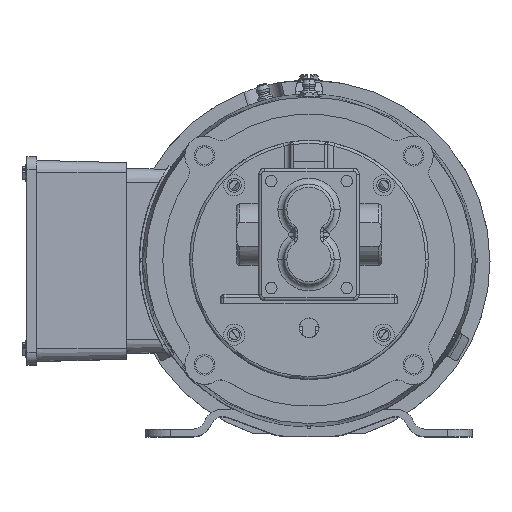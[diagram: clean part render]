
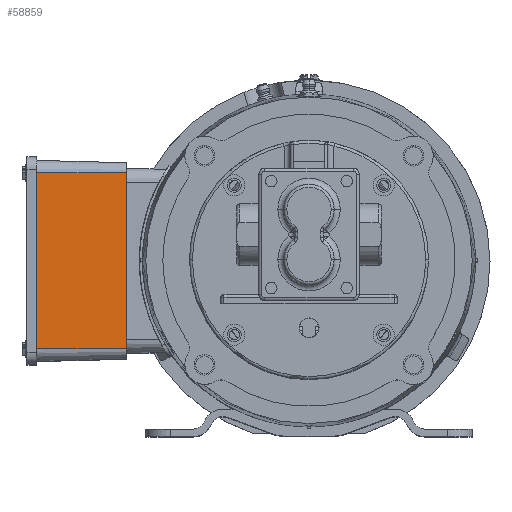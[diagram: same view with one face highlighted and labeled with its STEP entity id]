
A CAD part, top view. The second image highlights one B-rep face of the part: STEP entity #58859.
In plain terms, the highlighted planar face has unit normal (0.026, 0, 1).
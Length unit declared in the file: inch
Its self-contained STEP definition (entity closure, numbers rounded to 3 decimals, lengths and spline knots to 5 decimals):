
#1571 = CARTESIAN_POINT ( 'NONE',  ( -6.59618, 2.2822, -8.29026 ) ) ;
#7013 = PLANE ( 'NONE',  #24416 ) ;
#9485 = CARTESIAN_POINT ( 'NONE',  ( -6.59618, 2.2822, -8.29026 ) ) ;
#9666 = ORIENTED_EDGE ( 'NONE', *, *, #35410, .F. ) ;
#12640 = FACE_OUTER_BOUND ( 'NONE', #41572, .T. ) ;
#13055 = VECTOR ( 'NONE', #34735, 39.37008 ) ;
#14158 = LINE ( 'NONE', #9485, #55445 ) ;
#14369 = VERTEX_POINT ( 'NONE', #1571 ) ;
#15546 = CARTESIAN_POINT ( 'NONE',  ( -6.69118, -1.2178, -8.28777 ) ) ;
#15665 = LINE ( 'NONE', #48513, #13055 ) ;
#19294 = DIRECTION ( 'NONE',  ( -1., 0., 0.026 ) ) ;
#21411 = DIRECTION ( 'NONE',  ( 1., 0., -0.026 ) ) ;
#21734 = VERTEX_POINT ( 'NONE', #29027 ) ;
#24416 = AXIS2_PLACEMENT_3D ( 'NONE', #31692, #26996, #21411 ) ;
#26289 = VERTEX_POINT ( 'NONE', #59261 ) ;
#26668 = ORIENTED_EDGE ( 'NONE', *, *, #26997, .T. ) ;
#26996 = DIRECTION ( 'NONE',  ( 0.026, 0., 1. ) ) ;
#26997 = EDGE_CURVE ( 'NONE', #21734, #14369, #15665, .T. ) ;
#27474 = EDGE_CURVE ( 'NONE', #26289, #21734, #40250, .T. ) ;
#29027 = CARTESIAN_POINT ( 'NONE',  ( -4.81118, 2.2822, -8.337 ) ) ;
#31320 = CARTESIAN_POINT ( 'NONE',  ( -6.59618, -1.2178, -8.29026 ) ) ;
#31692 = CARTESIAN_POINT ( 'NONE',  ( -6.69118, 2.2822, -8.28777 ) ) ;
#32925 = DIRECTION ( 'NONE',  ( 0., -1., 0. ) ) ;
#33775 = EDGE_CURVE ( 'NONE', #14369, #56619, #14158, .T. ) ;
#34251 = VECTOR ( 'NONE', #41496, 39.37008 ) ;
#34735 = DIRECTION ( 'NONE',  ( -1., 0., 0.026 ) ) ;
#35410 = EDGE_CURVE ( 'NONE', #26289, #56619, #43062, .T. ) ;
#40250 = LINE ( 'NONE', #41171, #34251 ) ;
#41171 = CARTESIAN_POINT ( 'NONE',  ( -4.81118, 2.2822, -8.337 ) ) ;
#41496 = DIRECTION ( 'NONE',  ( 0., 1., 0. ) ) ;
#41572 = EDGE_LOOP ( 'NONE', ( #26668, #50916, #9666, #57267 ) ) ;
#43062 = LINE ( 'NONE', #15546, #61314 ) ;
#48513 = CARTESIAN_POINT ( 'NONE',  ( -6.69118, 2.2822, -8.28777 ) ) ;
#50916 = ORIENTED_EDGE ( 'NONE', *, *, #33775, .T. ) ;
#55445 = VECTOR ( 'NONE', #32925, 39.37008 ) ;
#56619 = VERTEX_POINT ( 'NONE', #31320 ) ;
#57267 = ORIENTED_EDGE ( 'NONE', *, *, #27474, .T. ) ;
#58859 = ADVANCED_FACE ( 'NONE', ( #12640 ), #7013, .T. ) ;
#59261 = CARTESIAN_POINT ( 'NONE',  ( -4.81118, -1.2178, -8.337 ) ) ;
#61314 = VECTOR ( 'NONE', #19294, 39.37008 ) ;
